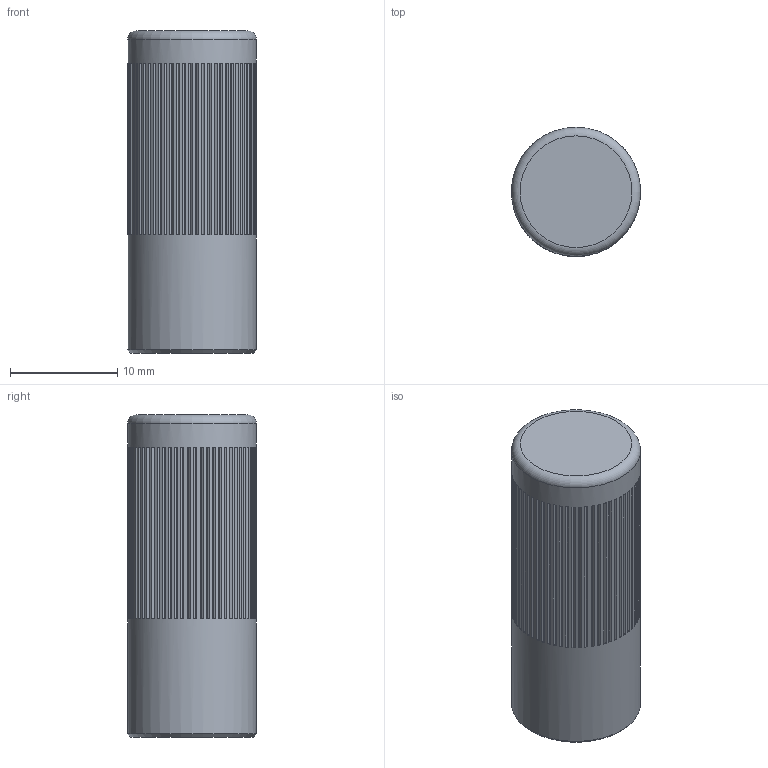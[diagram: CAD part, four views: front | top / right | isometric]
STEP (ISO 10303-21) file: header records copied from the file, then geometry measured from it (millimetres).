
FILE_DESCRIPTION(('Open CASCADE Model'),'2;1');
FILE_NAME('FL-PIN-knob-12','2026-10-19T21:24:06',('Author'),( 'Open CASCADE'),'Open CASCADE STEP processor 8.0','build123d', 'Unknown');
FILE_SCHEMA(('AUTOMOTIVE_DESIGN { 1 0 10303 214 1 1 1 1 }'));
Length unit declared in the file: millimetre
Products named in the file (2): FL-PIN-knob-12; brass_FL-PIN12__k
Assembly tree (1 placements, depth 2):
  FL-PIN-knob-12
    brass_FL-PIN12__k
Bounding box: 12 x 12 x 30 mm (x, y, z)
Volume: 3253.4 mm3; surface area: 1585.1 mm2
Topology: 1 solids, 1 shells, 261 faces, 583 edges, 388 vertices
Faces by surface type: plane 256, cylinder 3, cone 1, torus 1
Full cylindrical faces by diameter (mm): 3.3 x1, 5.1 x1, 12 x1
Entity records: 14065 total; most frequent: CARTESIAN_POINT 3160, DIRECTION 1652, ORIENTED_EDGE 1166, PCURVE 1166, DEFINITIONAL_REPRESENTATION 1166, B_SPLINE_CURVE_WITH_KNOTS 760, LINE 718, VECTOR 718
